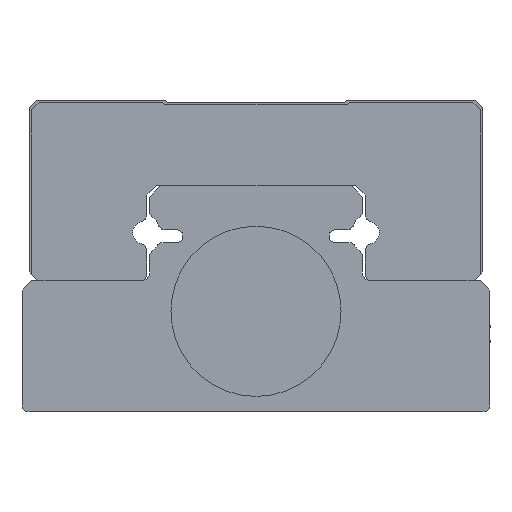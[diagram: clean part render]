
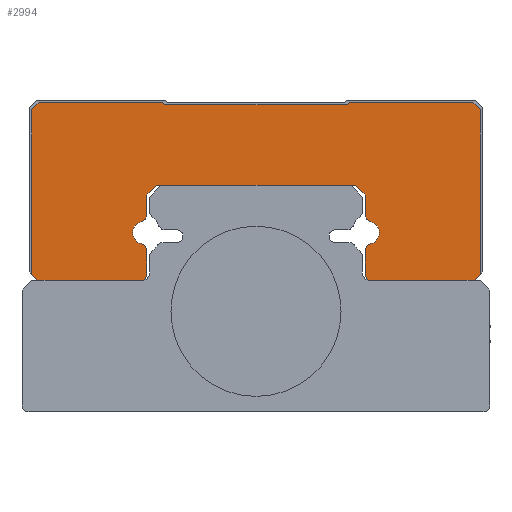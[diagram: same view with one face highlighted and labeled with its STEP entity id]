
A CAD part, front view. The second image highlights one B-rep face of the part: STEP entity #2994.
In plain terms, the highlighted planar face has unit normal (0, -1, 0).
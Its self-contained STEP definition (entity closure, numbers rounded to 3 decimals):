
#219=CIRCLE('',#3336,0.5);
#221=CIRCLE('',#3342,0.5);
#229=CIRCLE('',#3353,0.5);
#230=CIRCLE('',#3354,0.8);
#231=CIRCLE('',#3355,0.5);
#232=CIRCLE('',#3356,0.5);
#233=CIRCLE('',#3357,0.8);
#234=CIRCLE('',#3358,0.5);
#810=ORIENTED_EDGE('',*,*,#1262,.F.);
#811=ORIENTED_EDGE('',*,*,#1351,.F.);
#812=ORIENTED_EDGE('',*,*,#1336,.F.);
#813=ORIENTED_EDGE('',*,*,#1332,.F.);
#814=ORIENTED_EDGE('',*,*,#1352,.F.);
#815=ORIENTED_EDGE('',*,*,#1353,.F.);
#816=ORIENTED_EDGE('',*,*,#1354,.T.);
#817=ORIENTED_EDGE('',*,*,#1355,.F.);
#818=ORIENTED_EDGE('',*,*,#1356,.F.);
#819=ORIENTED_EDGE('',*,*,#1329,.F.);
#820=ORIENTED_EDGE('',*,*,#1326,.F.);
#821=ORIENTED_EDGE('',*,*,#1322,.F.);
#822=ORIENTED_EDGE('',*,*,#1357,.F.);
#823=ORIENTED_EDGE('',*,*,#1358,.F.);
#824=ORIENTED_EDGE('',*,*,#1359,.T.);
#825=ORIENTED_EDGE('',*,*,#1360,.F.);
#826=ORIENTED_EDGE('',*,*,#1361,.F.);
#827=ORIENTED_EDGE('',*,*,#1319,.F.);
#828=ORIENTED_EDGE('',*,*,#1315,.F.);
#829=ORIENTED_EDGE('',*,*,#1362,.F.);
#830=ORIENTED_EDGE('',*,*,#1286,.F.);
#831=ORIENTED_EDGE('',*,*,#1283,.F.);
#832=ORIENTED_EDGE('',*,*,#1280,.F.);
#833=ORIENTED_EDGE('',*,*,#1277,.F.);
#834=ORIENTED_EDGE('',*,*,#1274,.F.);
#835=ORIENTED_EDGE('',*,*,#1271,.F.);
#836=ORIENTED_EDGE('',*,*,#1268,.F.);
#837=ORIENTED_EDGE('',*,*,#1265,.F.);
#1262=EDGE_CURVE('',#1602,#1600,#1831,.T.);
#1265=EDGE_CURVE('',#1600,#1604,#1834,.T.);
#1268=EDGE_CURVE('',#1604,#1606,#1837,.T.);
#1271=EDGE_CURVE('',#1606,#1608,#1840,.T.);
#1274=EDGE_CURVE('',#1608,#1610,#1843,.T.);
#1277=EDGE_CURVE('',#1610,#1612,#1846,.T.);
#1280=EDGE_CURVE('',#1612,#1614,#1849,.T.);
#1283=EDGE_CURVE('',#1614,#1616,#1852,.T.);
#1286=EDGE_CURVE('',#1616,#1618,#1855,.T.);
#1315=EDGE_CURVE('',#1639,#1640,#1884,.T.);
#1319=EDGE_CURVE('',#1640,#1643,#219,.T.);
#1322=EDGE_CURVE('',#1645,#1646,#1889,.T.);
#1326=EDGE_CURVE('',#1646,#1649,#1893,.T.);
#1329=EDGE_CURVE('',#1649,#1651,#1896,.T.);
#1332=EDGE_CURVE('',#1653,#1654,#221,.T.);
#1336=EDGE_CURVE('',#1654,#1657,#1901,.T.);
#1351=EDGE_CURVE('',#1657,#1602,#1910,.T.);
#1352=EDGE_CURVE('',#1667,#1653,#1911,.T.);
#1353=EDGE_CURVE('',#1668,#1667,#229,.T.);
#1354=EDGE_CURVE('',#1668,#1669,#230,.T.);
#1355=EDGE_CURVE('',#1670,#1669,#231,.T.);
#1356=EDGE_CURVE('',#1651,#1670,#1912,.T.);
#1357=EDGE_CURVE('',#1671,#1645,#1913,.T.);
#1358=EDGE_CURVE('',#1672,#1671,#232,.T.);
#1359=EDGE_CURVE('',#1672,#1673,#233,.T.);
#1360=EDGE_CURVE('',#1674,#1673,#234,.T.);
#1361=EDGE_CURVE('',#1643,#1674,#1914,.T.);
#1362=EDGE_CURVE('',#1618,#1639,#1915,.T.);
#1600=VERTEX_POINT('',#4865);
#1602=VERTEX_POINT('',#4869);
#1604=VERTEX_POINT('',#4874);
#1606=VERTEX_POINT('',#4880);
#1608=VERTEX_POINT('',#4886);
#1610=VERTEX_POINT('',#4892);
#1612=VERTEX_POINT('',#4898);
#1614=VERTEX_POINT('',#4904);
#1616=VERTEX_POINT('',#4910);
#1618=VERTEX_POINT('',#4916);
#1639=VERTEX_POINT('',#4978);
#1640=VERTEX_POINT('',#4979);
#1643=VERTEX_POINT('',#4987);
#1645=VERTEX_POINT('',#4993);
#1646=VERTEX_POINT('',#4994);
#1649=VERTEX_POINT('',#5002);
#1651=VERTEX_POINT('',#5008);
#1653=VERTEX_POINT('',#5014);
#1654=VERTEX_POINT('',#5015);
#1657=VERTEX_POINT('',#5023);
#1667=VERTEX_POINT('',#5051);
#1668=VERTEX_POINT('',#5053);
#1669=VERTEX_POINT('',#5055);
#1670=VERTEX_POINT('',#5057);
#1671=VERTEX_POINT('',#5060);
#1672=VERTEX_POINT('',#5062);
#1673=VERTEX_POINT('',#5064);
#1674=VERTEX_POINT('',#5066);
#1831=LINE('',#4870,#2063);
#1834=LINE('',#4876,#2066);
#1837=LINE('',#4882,#2069);
#1840=LINE('',#4888,#2072);
#1843=LINE('',#4894,#2075);
#1846=LINE('',#4900,#2078);
#1849=LINE('',#4906,#2081);
#1852=LINE('',#4912,#2084);
#1855=LINE('',#4918,#2087);
#1884=LINE('',#4977,#2116);
#1889=LINE('',#4992,#2121);
#1893=LINE('',#5001,#2125);
#1896=LINE('',#5007,#2128);
#1901=LINE('',#5022,#2133);
#1910=LINE('',#5049,#2142);
#1911=LINE('',#5050,#2143);
#1912=LINE('',#5058,#2144);
#1913=LINE('',#5059,#2145);
#1914=LINE('',#5067,#2146);
#1915=LINE('',#5068,#2147);
#2063=VECTOR('',#3991,1000.);
#2066=VECTOR('',#3996,1000.);
#2069=VECTOR('',#4001,1000.);
#2072=VECTOR('',#4006,1000.);
#2075=VECTOR('',#4011,1000.);
#2078=VECTOR('',#4016,1000.);
#2081=VECTOR('',#4021,1000.);
#2084=VECTOR('',#4026,1000.);
#2087=VECTOR('',#4031,1000.);
#2116=VECTOR('',#4080,1000.);
#2121=VECTOR('',#4093,1000.);
#2125=VECTOR('',#4099,1000.);
#2128=VECTOR('',#4104,1000.);
#2133=VECTOR('',#4117,1000.);
#2142=VECTOR('',#4142,1000.);
#2143=VECTOR('',#4143,1000.);
#2144=VECTOR('',#4150,1000.);
#2145=VECTOR('',#4151,1000.);
#2146=VECTOR('',#4158,1000.);
#2147=VECTOR('',#4159,1000.);
#2390=EDGE_LOOP('',(#810,#811,#812,#813,#814,#815,#816,#817,#818,#819,#820,
#821,#822,#823,#824,#825,#826,#827,#828,#829,#830,#831,#832,#833,#834,#835,
#836,#837));
#2672=FACE_BOUND('',#2390,.T.);
#2831=PLANE('',#3352);
#2994=ADVANCED_FACE('',(#2672),#2831,.F.);
#3336=AXIS2_PLACEMENT_3D('',#4986,#4086,#4087);
#3342=AXIS2_PLACEMENT_3D('',#5013,#4109,#4110);
#3352=AXIS2_PLACEMENT_3D('',#5048,#4140,#4141);
#3353=AXIS2_PLACEMENT_3D('',#5052,#4144,#4145);
#3354=AXIS2_PLACEMENT_3D('',#5054,#4146,#4147);
#3355=AXIS2_PLACEMENT_3D('',#5056,#4148,#4149);
#3356=AXIS2_PLACEMENT_3D('',#5061,#4152,#4153);
#3357=AXIS2_PLACEMENT_3D('',#5063,#4154,#4155);
#3358=AXIS2_PLACEMENT_3D('',#5065,#4156,#4157);
#3991=DIRECTION('',(0.,0.,1.));
#3996=DIRECTION('',(0.707,0.,0.707));
#4001=DIRECTION('',(1.,0.,0.));
#4006=DIRECTION('',(0.707,0.,-0.707));
#4011=DIRECTION('',(1.,0.,0.));
#4016=DIRECTION('',(0.707,0.,0.707));
#4021=DIRECTION('',(1.,0.,0.));
#4026=DIRECTION('',(0.707,0.,-0.707));
#4031=DIRECTION('',(0.,0.,-1.));
#4080=DIRECTION('',(-1.,0.,0.));
#4086=DIRECTION('',(0.,1.,0.));
#4087=DIRECTION('',(1.,0.,0.));
#4093=DIRECTION('',(-0.707,0.,0.707));
#4099=DIRECTION('',(-1.,0.,0.));
#4104=DIRECTION('',(-0.707,0.,-0.707));
#4109=DIRECTION('',(0.,1.,0.));
#4110=DIRECTION('',(1.,0.,0.));
#4117=DIRECTION('',(-1.,0.,0.));
#4140=DIRECTION('',(0.,1.,0.));
#4141=DIRECTION('',(0.,0.,1.));
#4142=DIRECTION('',(-0.707,0.,0.707));
#4143=DIRECTION('',(0.,0.,-1.));
#4144=DIRECTION('',(0.,1.,0.));
#4145=DIRECTION('',(1.,0.,0.));
#4146=DIRECTION('',(0.,1.,0.));
#4147=DIRECTION('',(1.,0.,0.));
#4148=DIRECTION('',(0.,1.,0.));
#4149=DIRECTION('',(1.,0.,0.));
#4150=DIRECTION('',(0.,0.,-1.));
#4151=DIRECTION('',(0.,0.,1.));
#4152=DIRECTION('',(0.,1.,0.));
#4153=DIRECTION('',(1.,0.,0.));
#4154=DIRECTION('',(0.,1.,0.));
#4155=DIRECTION('',(1.,0.,0.));
#4156=DIRECTION('',(0.,1.,0.));
#4157=DIRECTION('',(1.,0.,0.));
#4158=DIRECTION('',(0.,0.,1.));
#4159=DIRECTION('',(-0.707,0.,-0.707));
#4865=CARTESIAN_POINT('',(-15.8,21.5,21.3));
#4869=CARTESIAN_POINT('',(-15.8,21.5,9.7));
#4870=CARTESIAN_POINT('',(-15.8,21.5,9.7));
#4874=CARTESIAN_POINT('',(-15.3,21.5,21.8));
#4876=CARTESIAN_POINT('',(-15.8,21.5,21.3));
#4880=CARTESIAN_POINT('',(-6.6,21.5,21.8));
#4882=CARTESIAN_POINT('',(-15.3,21.5,21.8));
#4886=CARTESIAN_POINT('',(-6.45,21.5,21.65));
#4888=CARTESIAN_POINT('',(-6.6,21.5,21.8));
#4892=CARTESIAN_POINT('',(6.45,21.5,21.65));
#4894=CARTESIAN_POINT('',(-6.45,21.5,21.65));
#4898=CARTESIAN_POINT('',(6.6,21.5,21.8));
#4900=CARTESIAN_POINT('',(6.45,21.5,21.65));
#4904=CARTESIAN_POINT('',(15.3,21.5,21.8));
#4906=CARTESIAN_POINT('',(6.6,21.5,21.8));
#4910=CARTESIAN_POINT('',(15.8,21.5,21.3));
#4912=CARTESIAN_POINT('',(15.3,21.5,21.8));
#4916=CARTESIAN_POINT('',(15.8,21.5,9.7));
#4918=CARTESIAN_POINT('',(15.8,21.5,21.3));
#4977=CARTESIAN_POINT('',(15.3,21.5,9.2));
#4978=CARTESIAN_POINT('',(15.3,21.5,9.2));
#4979=CARTESIAN_POINT('',(8.2,21.5,9.2));
#4986=CARTESIAN_POINT('',(8.2,21.5,9.7));
#4987=CARTESIAN_POINT('',(7.7,21.5,9.7));
#4992=CARTESIAN_POINT('',(7.7,21.5,15.3));
#4993=CARTESIAN_POINT('',(7.7,21.5,15.3));
#4994=CARTESIAN_POINT('',(7.,21.5,16.));
#5001=CARTESIAN_POINT('',(7.,21.5,16.));
#5002=CARTESIAN_POINT('',(-7.,21.5,16.));
#5007=CARTESIAN_POINT('',(-7.,21.5,16.));
#5008=CARTESIAN_POINT('',(-7.7,21.5,15.3));
#5013=CARTESIAN_POINT('',(-8.2,21.5,9.7));
#5014=CARTESIAN_POINT('',(-7.7,21.5,9.7));
#5015=CARTESIAN_POINT('',(-8.2,21.5,9.2));
#5022=CARTESIAN_POINT('',(-8.2,21.5,9.2));
#5023=CARTESIAN_POINT('',(-15.3,21.5,9.2));
#5048=CARTESIAN_POINT('',(8.2,21.5,9.7));
#5049=CARTESIAN_POINT('',(-15.3,21.5,9.2));
#5050=CARTESIAN_POINT('',(-7.7,21.5,11.385));
#5051=CARTESIAN_POINT('',(-7.7,21.5,11.385));
#5052=CARTESIAN_POINT('',(-8.2,21.5,11.385));
#5053=CARTESIAN_POINT('',(-8.085,21.5,11.872));
#5054=CARTESIAN_POINT('',(-7.9,21.5,12.65));
#5055=CARTESIAN_POINT('',(-8.085,21.5,13.428));
#5056=CARTESIAN_POINT('',(-8.2,21.5,13.915));
#5057=CARTESIAN_POINT('',(-7.7,21.5,13.915));
#5058=CARTESIAN_POINT('',(-7.7,21.5,15.3));
#5059=CARTESIAN_POINT('',(7.7,21.5,13.915));
#5060=CARTESIAN_POINT('',(7.7,21.5,13.915));
#5061=CARTESIAN_POINT('',(8.2,21.5,13.915));
#5062=CARTESIAN_POINT('',(8.085,21.5,13.428));
#5063=CARTESIAN_POINT('',(7.9,21.5,12.65));
#5064=CARTESIAN_POINT('',(8.085,21.5,11.872));
#5065=CARTESIAN_POINT('',(8.2,21.5,11.385));
#5066=CARTESIAN_POINT('',(7.7,21.5,11.385));
#5067=CARTESIAN_POINT('',(7.7,21.5,9.7));
#5068=CARTESIAN_POINT('',(15.8,21.5,9.7));
